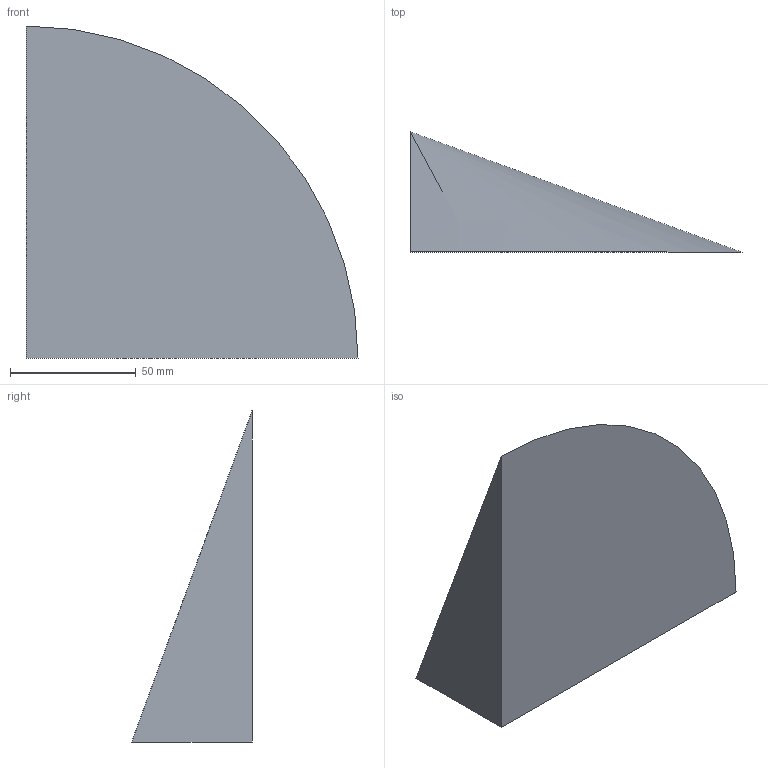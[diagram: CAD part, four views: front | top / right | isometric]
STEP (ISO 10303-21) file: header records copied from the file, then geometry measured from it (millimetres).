
FILE_DESCRIPTION(('CATIA V5 STEP Exchange'),'2;1');
FILE_NAME('C:\_Andres\UNIVERSIDAD\IQS\ASIGNATURAS\DAO\EXF\EXF-16172c\2inicio\Sarasa_Prat_Ej07_v32.stp','2017-03-05T21:18:15+00:00',('none'),('none'),'CATIA Version 5-6 Release 2014 SP1 HF18','CATIA V5 STEP AP203','none');
FILE_SCHEMA(('CONFIG_CONTROL_DESIGN'));
Length unit declared in the file: millimetre
Products named in the file (1): Sarasa_Prat_Ej07_v32
Bounding box: 132 x 48 x 132 mm (x, y, z)
Volume: 218956.4 mm3; surface area: 34582.3 mm2
Topology: 1 solids, 1 shells, 4 faces, 7 edges, 4 vertices
Faces by surface type: plane 3, cone 1
Entity records: 131 total; most frequent: CARTESIAN_POINT 15, DIRECTION 14, ORIENTED_EDGE 12, AXIS2_PLACEMENT_3D 6, EDGE_CURVE 6, VECTOR 5, LINE 5, ADVANCED_FACE 4
